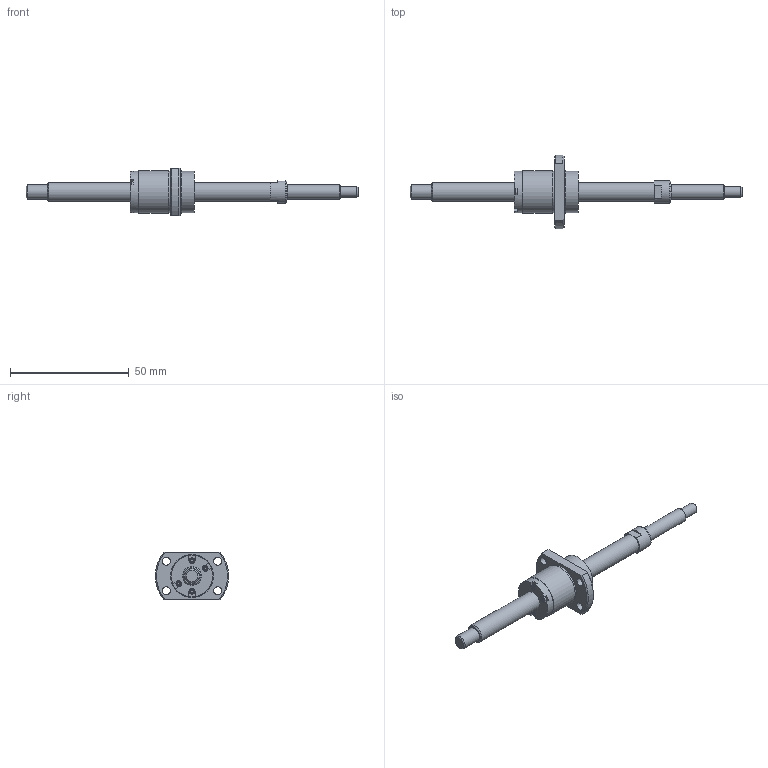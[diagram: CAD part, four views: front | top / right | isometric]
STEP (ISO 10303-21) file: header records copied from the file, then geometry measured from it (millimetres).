
FILE_DESCRIPTION(/* description */ ('STEP AP214'),/* implementation_level */ '2;1');
FILE_NAME(/* name */ 'SG0812-088R140C5C0X(35)',/* time_stamp */ '2026-07-23T22:52:35+02:00',/* author */ ('License CC BY-ND 4.0'),/* organization */ ('CADENAS'),/* preprocessor_version */ 'ST-DEVELOPER v20',/* originating_system */ 'PARTsolutions',/* authorisation */ ' ');
FILE_SCHEMA (('AUTOMOTIVE_DESIGN {1 0 10303 214 3 1 1}'));
Length unit declared in the file: millimetre
Products named in the file (3): SG0812-088R140C5C0X(35); SG0812-88R140C5C_shaft; SG0812 C5_nut
Assembly tree (2 placements, depth 2):
  SG0812-088R140C5C0X(35)
    SG0812-88R140C5C_shaft
    SG0812 C5_nut
Bounding box: 140 x 30.91 x 20 mm (x, y, z)
Volume: 12680.6 mm3; surface area: 6922.1 mm2
Topology: 2 solids, 2 shells, 103 faces, 236 edges, 153 vertices
Faces by surface type: plane 64, cylinder 25, cone 13, torus 1
Full cylindrical faces by diameter (mm): 2.25 x4, 3.4 x4, 4.5 x1, 6 x2, 8 x2, 9.5 x1, 17.5 x3, 18 x2
Entity records: 2841 total; most frequent: CARTESIAN_POINT 486, DIRECTION 484, ORIENTED_EDGE 410, EDGE_CURVE 205, AXIS2_PLACEMENT_3D 181, EDGE_LOOP 158, FACE_BOUND 158, VERTEX_POINT 151
